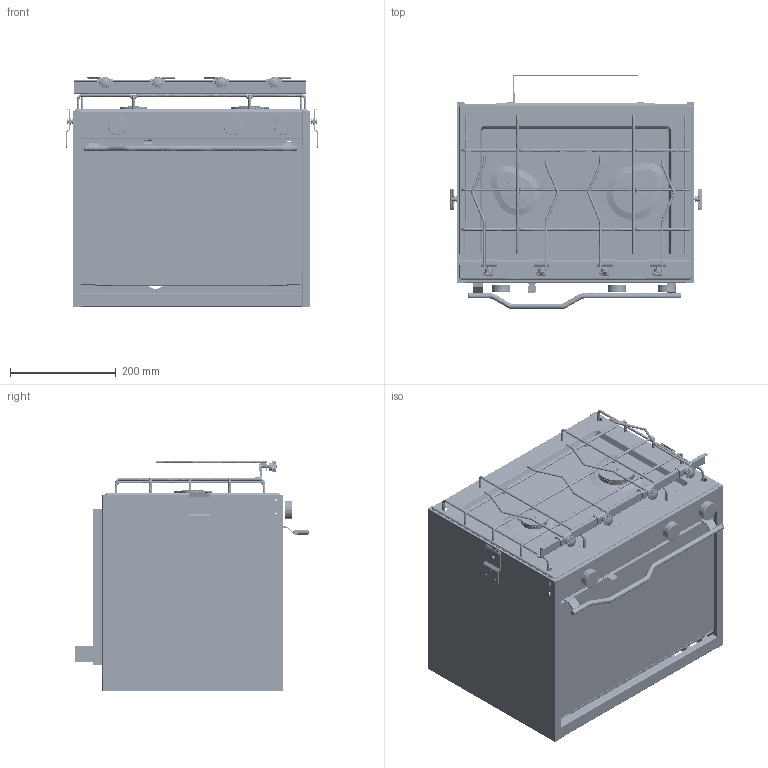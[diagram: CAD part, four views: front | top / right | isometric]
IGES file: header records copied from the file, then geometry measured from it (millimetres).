
Start section:  Alias DesignStudio for Windows version 12.0 IGES version 5.3
Global section: file name: C:\00000LAVORI_IN_CORSO\techimpex\classic o 92n\classic\classic.iges; native system: Alias DesignStudio for Windows V12.0; preprocessor: 12.0; author: admin; organization: Unknown; date: 20080813.163306; units: millimetre
Bounding box: 478.97 x 443.86 x 437.27 mm (x, y, z)
Surface area: 2370175.1 mm2 (no closed solid volume)
Topology: 0 solids, 0 shells, 2425 faces, 19104 edges, 18716 vertices
Faces by surface type: bspline 2425
